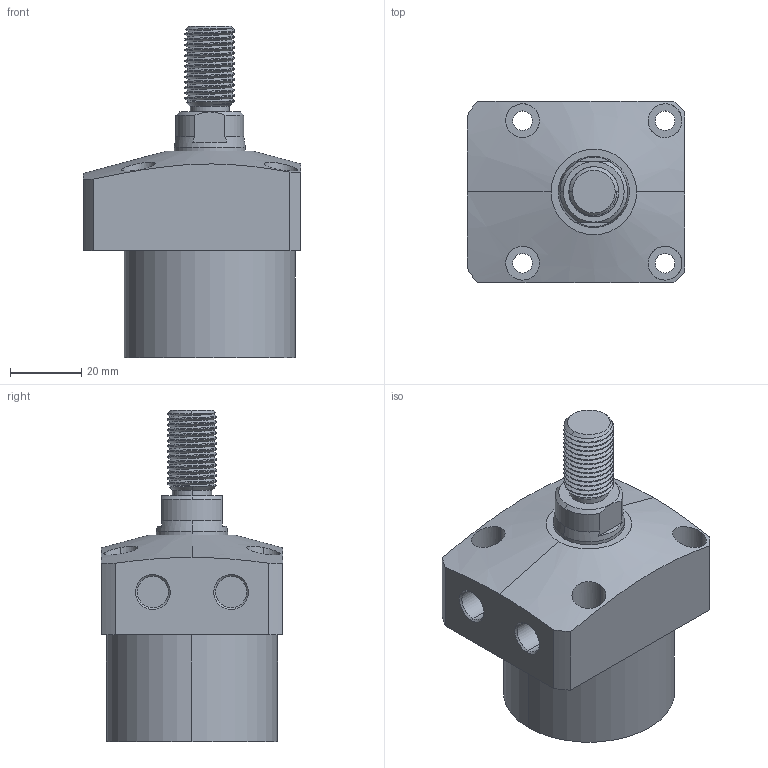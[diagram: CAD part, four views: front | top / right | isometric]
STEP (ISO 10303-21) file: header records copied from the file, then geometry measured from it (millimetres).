
FILE_DESCRIPTION (( 'STEP AP203' ), '1' );
FILE_NAME ('CLL-048CT-020.STEP', '2020-01-10T01:07:49', ( '' ), ( '' ), 'SwSTEP 2.0', 'SolidWorks 2015', '' );
FILE_SCHEMA (( 'CONFIG_CONTROL_DESIGN' ));
Length unit declared in the file: millimetre
Products named in the file (1): CLL-048CT-020
Bounding box: 61 x 51 x 93 mm (x, y, z)
Volume: 133288 mm3; surface area: 20518.6 mm2
Topology: 1 solids, 1 shells, 105 faces, 262 edges, 170 vertices
Faces by surface type: cylinder 63, plane 24, cone 16, bspline 2
Entity records: 5144 total; most frequent: CARTESIAN_POINT 2700, ORIENTED_EDGE 524, DIRECTION 464, EDGE_CURVE 262, AXIS2_PLACEMENT_3D 184, VERTEX_POINT 170, EDGE_LOOP 124, ADVANCED_FACE 105
